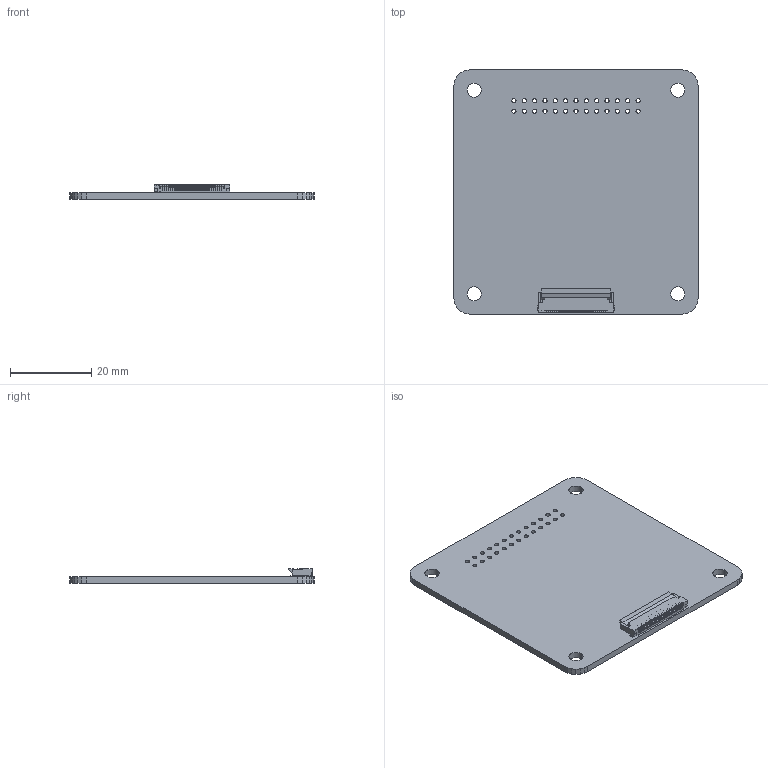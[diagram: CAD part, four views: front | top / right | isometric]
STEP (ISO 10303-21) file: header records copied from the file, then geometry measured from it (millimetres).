
FILE_DESCRIPTION (( 'STEP AP214' ), '1' );
FILE_NAME ('NHD-1.5-Breakout.STEP', '2019-05-13T18:25:33', ( '' ), ( '' ), 'SwSTEP 2.0', 'SolidWorks 2018', '' );
FILE_SCHEMA (( 'AUTOMOTIVE_DESIGN' ));
Length unit declared in the file: millimetre
Products named in the file (3): 1.5-Breakout; XF2M_3015_1A; NHD-1.5-Breakout
Assembly tree (2 placements, depth 2):
  NHD-1.5-Breakout
    1.5-Breakout
    XF2M_3015_1A
Bounding box: 60 x 60 x 3.6 mm (x, y, z)
Volume: 5797.5 mm3; surface area: 8216.6 mm2
Topology: 2 solids, 2 shells, 1253 faces, 3649 edges, 2432 vertices
Faces by surface type: plane 1192, cylinder 61
Entity records: 41849 total; most frequent: CARTESIAN_POINT 7339, ORIENTED_EDGE 7298, DIRECTION 6287, EDGE_CURVE 3649, VECTOR 3527, LINE 3527, VERTEX_POINT 2432, AXIS2_PLACEMENT_3D 1380
